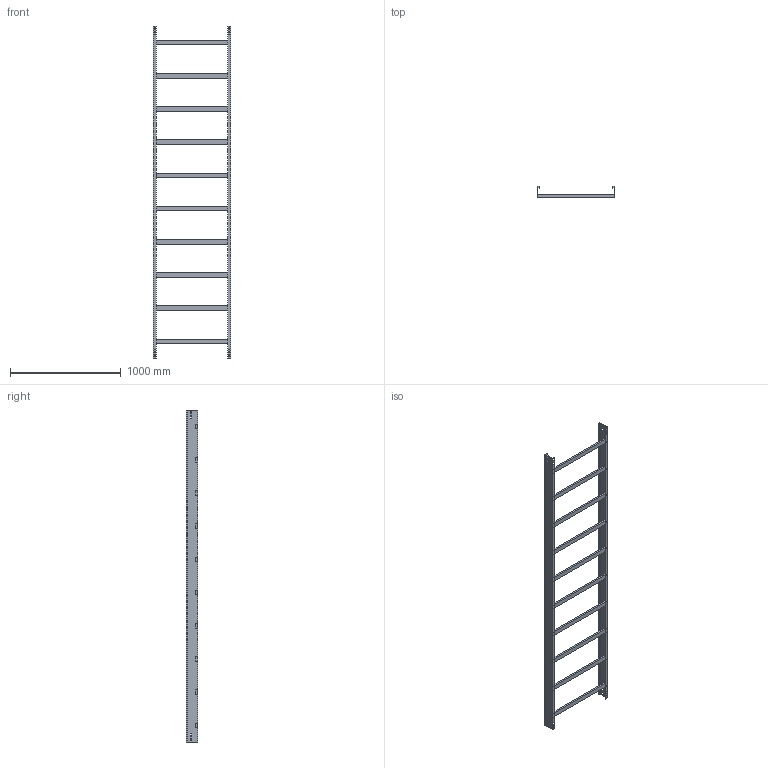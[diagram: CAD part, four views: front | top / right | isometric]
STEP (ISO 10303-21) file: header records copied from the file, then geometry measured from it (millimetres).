
FILE_DESCRIPTION (( 'STEP AP214' ), '1' );
FILE_NAME ('01B3D700.step', '2025-02-21T15:59:54', ( '' ), ( '' ), 'SwSTEP 2.0', 'SolidWorks 2023', '' );
FILE_SCHEMA (( 'AUTOMOTIVE_DESIGN' ));
Length unit declared in the file: millimetre
Products named in the file (3): LONGH.H100; 01B3D700; TRAVERSINO_700
Assembly tree (12 placements, depth 2):
  01B3D700
    LONGH.H100  x2
    TRAVERSINO_700  x10
Bounding box: 700 x 100 x 3000 mm (x, y, z)
Volume: 8284672 mm3; surface area: 2573056 mm2
Topology: 12 solids, 12 shells, 144 faces, 360 edges, 240 vertices
Faces by surface type: plane 144
Entity records: 1696 total; most frequent: CARTESIAN_POINT 283, ORIENTED_EDGE 264, DIRECTION 258, LINE 132, EDGE_CURVE 132, VECTOR 132, VERTEX_POINT 88, EDGE_LOOP 64
